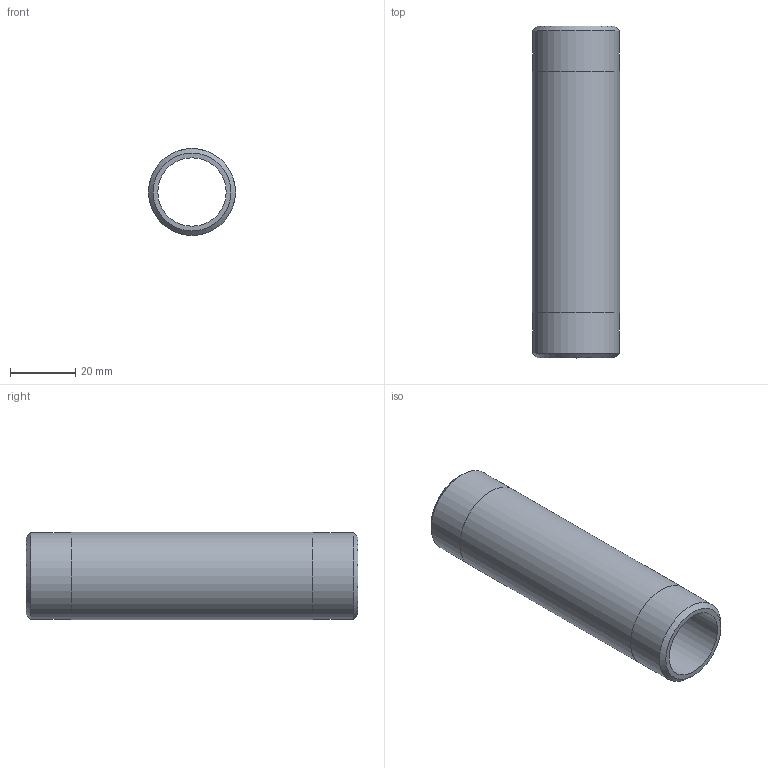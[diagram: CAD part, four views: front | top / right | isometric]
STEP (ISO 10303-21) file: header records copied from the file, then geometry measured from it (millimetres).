
FILE_DESCRIPTION(/* description */ (''),/* implementation_level */ '2;1');
FILE_NAME(/* name */ 'C:/Users/drich/Desktop/SSPN34-4 v1.step',/* time_stamp */ '2020-01-04T13:40:56-06:00',/* author */ (''),/* organization */ (''),/* preprocessor_version */ 'ST-DEVELOPER v18',/* originating_system */ 'Autodesk Translation Framework v8.12.0.6',/* authorisation */ '');
FILE_SCHEMA (('AUTOMOTIVE_DESIGN { 1 0 10303 214 3 1 1 }'));
Length unit declared in the file: inch
Products named in the file (1): SSPN34-4
Bounding box: 26.67 x 101.6 x 26.67 mm (x, y, z)
Volume: 21587.3 mm3; surface area: 15476 mm2
Topology: 1 solids, 1 shells, 10 faces, 24 edges, 18 vertices
Faces by surface type: cylinder 4, plane 4, cone 2
Full cylindrical faces by diameter (mm): 20.93 x1, 26.619 x2, 26.67 x1
Entity records: 353 total; most frequent: DIRECTION 64, CARTESIAN_POINT 53, ORIENTED_EDGE 48, AXIS2_PLACEMENT_3D 29, EDGE_CURVE 24, CIRCLE 18, VERTEX_POINT 18, EDGE_LOOP 14
